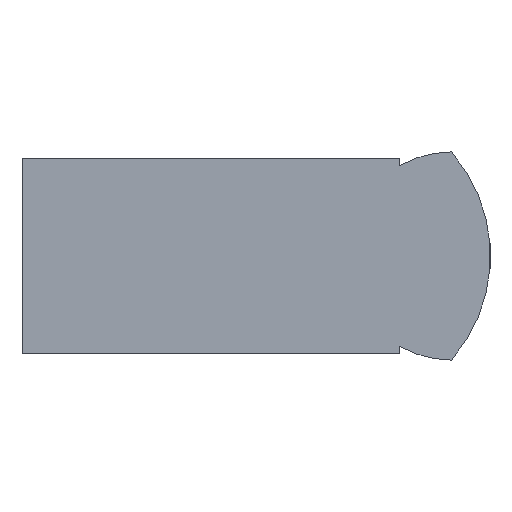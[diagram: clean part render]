
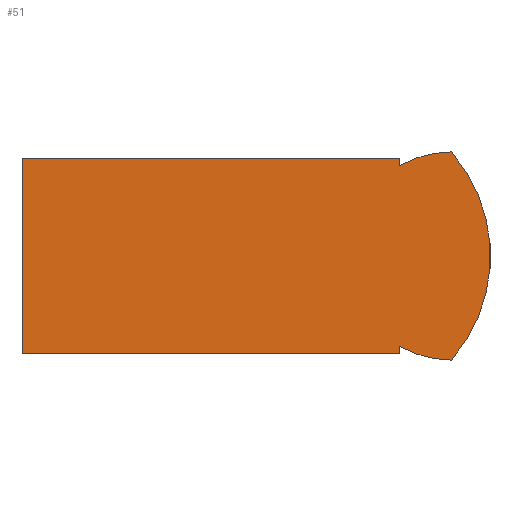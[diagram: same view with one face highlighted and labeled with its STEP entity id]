
A CAD part, left-side view. The second image highlights one B-rep face of the part: STEP entity #51.
In plain terms, the highlighted planar face has unit normal (-1, 0, 0).
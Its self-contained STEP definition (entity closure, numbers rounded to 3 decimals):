
#51 = ADVANCED_FACE( '', ( #115 ), #116, .F. );
#115 = FACE_OUTER_BOUND( '', #190, .T. );
#116 = PLANE( '', #191 );
#190 = EDGE_LOOP( '', ( #268, #269, #270, #271, #272, #273, #274, #275 ) );
#191 = AXIS2_PLACEMENT_3D( '', #276, #277, #278 );
#268 = ORIENTED_EDGE( '', *, *, #435, .F. );
#269 = ORIENTED_EDGE( '', *, *, #436, .T. );
#270 = ORIENTED_EDGE( '', *, *, #437, .T. );
#271 = ORIENTED_EDGE( '', *, *, #438, .F. );
#272 = ORIENTED_EDGE( '', *, *, #439, .F. );
#273 = ORIENTED_EDGE( '', *, *, #440, .T. );
#274 = ORIENTED_EDGE( '', *, *, #441, .F. );
#275 = ORIENTED_EDGE( '', *, *, #442, .F. );
#276 = CARTESIAN_POINT( '', ( -6., -28.416, 0. ) );
#277 = DIRECTION( '', ( 1., 0., 0. ) );
#278 = DIRECTION( '', ( 0., 0., -1. ) );
#435 = EDGE_CURVE( '', #510, #511, #512, .T. );
#436 = EDGE_CURVE( '', #510, #513, #514, .T. );
#437 = EDGE_CURVE( '', #513, #515, #516, .T. );
#438 = EDGE_CURVE( '', #517, #515, #518, .T. );
#439 = EDGE_CURVE( '', #519, #517, #520, .T. );
#440 = EDGE_CURVE( '', #519, #521, #522, .T. );
#441 = EDGE_CURVE( '', #523, #521, #524, .T. );
#442 = EDGE_CURVE( '', #511, #523, #525, .T. );
#510 = VERTEX_POINT( '', #613 );
#511 = VERTEX_POINT( '', #614 );
#512 = CIRCLE( '', #615, 8. );
#513 = VERTEX_POINT( '', #616 );
#514 = LINE( '', #617, #618 );
#515 = VERTEX_POINT( '', #619 );
#516 = LINE( '', #620, #621 );
#517 = VERTEX_POINT( '', #622 );
#518 = LINE( '', #623, #624 );
#519 = VERTEX_POINT( '', #625 );
#520 = LINE( '', #626, #627 );
#521 = VERTEX_POINT( '', #628 );
#522 = LINE( '', #629, #630 );
#523 = VERTEX_POINT( '', #631 );
#524 = CIRCLE( '', #632, 8. );
#525 = CIRCLE( '', #633, 12.167 );
#613 = CARTESIAN_POINT( '', ( -6., -29., 6.928 ) );
#614 = CARTESIAN_POINT( '', ( -6., -33., 8. ) );
#615 = AXIS2_PLACEMENT_3D( '', #738, #739, #740 );
#616 = CARTESIAN_POINT( '', ( -6., -29., 7.5 ) );
#617 = CARTESIAN_POINT( '', ( -6., -29., -7.5 ) );
#618 = VECTOR( '', #741, 1000. );
#619 = CARTESIAN_POINT( '', ( -6., 0., 7.5 ) );
#620 = CARTESIAN_POINT( '', ( -6., -29., 7.5 ) );
#621 = VECTOR( '', #742, 1000. );
#622 = CARTESIAN_POINT( '', ( -6., 0., -7.5 ) );
#623 = CARTESIAN_POINT( '', ( -6., 0., -7.5 ) );
#624 = VECTOR( '', #743, 1000. );
#625 = CARTESIAN_POINT( '', ( -6., -29., -7.5 ) );
#626 = CARTESIAN_POINT( '', ( -6., -29., -7.5 ) );
#627 = VECTOR( '', #744, 1000. );
#628 = CARTESIAN_POINT( '', ( -6., -29., -6.928 ) );
#629 = CARTESIAN_POINT( '', ( -6., -29., -7.5 ) );
#630 = VECTOR( '', #745, 1000. );
#631 = CARTESIAN_POINT( '', ( -6., -33., -8. ) );
#632 = AXIS2_PLACEMENT_3D( '', #746, #747, #748 );
#633 = AXIS2_PLACEMENT_3D( '', #749, #750, #751 );
#738 = CARTESIAN_POINT( '', ( -6., -33., 0. ) );
#739 = DIRECTION( '', ( 1., 0., 0. ) );
#740 = DIRECTION( '', ( 0., 0., -1. ) );
#741 = DIRECTION( '', ( 0., 0., 1. ) );
#742 = DIRECTION( '', ( 0., 1., 0. ) );
#743 = DIRECTION( '', ( 0., 0., 1. ) );
#744 = DIRECTION( '', ( 0., 1., 0. ) );
#745 = DIRECTION( '', ( 0., 0., 1. ) );
#746 = CARTESIAN_POINT( '', ( -6., -33., 0. ) );
#747 = DIRECTION( '', ( 1., 0., 0. ) );
#748 = DIRECTION( '', ( 0., 0., -1. ) );
#749 = CARTESIAN_POINT( '', ( -6., -23.833, 0. ) );
#750 = DIRECTION( '', ( 1., 0., 0. ) );
#751 = DIRECTION( '', ( 0., 0., -1. ) );
